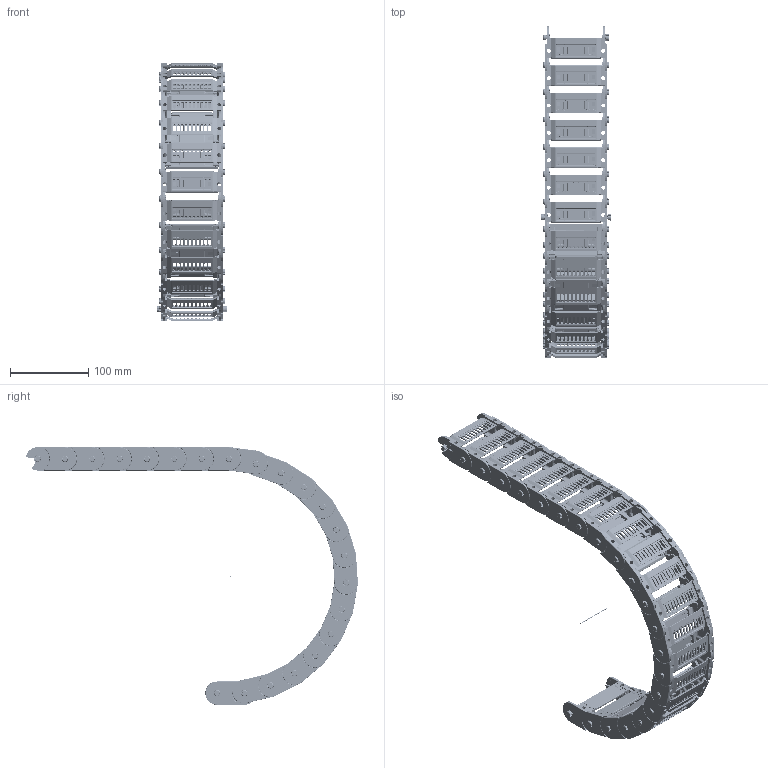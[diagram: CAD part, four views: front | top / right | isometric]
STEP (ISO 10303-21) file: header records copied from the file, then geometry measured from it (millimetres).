
FILE_DESCRIPTION((''),'2;1');
FILE_NAME('C:\Uebbing\PARAMETERKETTEN\KOLIBRI\Kol_30_080_0\KOLIBRI 30_080_0_R150_ELTOLA.stp','2012-03-05T10:23:47',('Uebbing'),(''),'Autodesk Inventor 10','Autodesk Inventor 10','');
FILE_SCHEMA(('AUTOMOTIVE_DESIGN { 1 0 10303 214 1 1 1 1 }'));
Length unit declared in the file: millimetre
Products named in the file (6): KOLIBRI 30_080_0_ELTOLA_PARAMETRISCH; Achse; Kol_30_080_0 ELTOLA_Glied; Kol 30_080_0 Lasche ELTOLA; Kol 30_080_0 Klappsteg; ELTOLA30
Assembly tree (28 placements, depth 3):
  KOLIBRI 30_080_0_ELTOLA_PARAMETRISCH
    Achse
    Kol_30_080_0 ELTOLA_Glied  x21
      Kol 30_080_0 Lasche ELTOLA
      Kol 30_080_0 Klappsteg
      ELTOLA30
    ELTOLA30  x2
Bounding box: 90 x 424.69 x 330 mm (x, y, z)
Volume: 391525.7 mm3; surface area: 373134.1 mm2
Topology: 87 solids, 87 shells, 25151 faces, 69002 edges, 44424 vertices
Faces by surface type: plane 10100, bspline 8513, cylinder 5039, torus 1058, sphere 231, cone 210
Full cylindrical faces by diameter (mm): 1 x1, 1.166 x21, 2.048 x21, 2.8 x126, 5.1 x21
Entity records: 43577 total; most frequent: CARTESIAN_POINT 16205, ORIENTED_EDGE 6136, DIRECTION 4931, EDGE_CURVE 3068, VERTEX_POINT 1989, VECTOR 1797, LINE 1797, AXIS2_PLACEMENT_3D 1567
